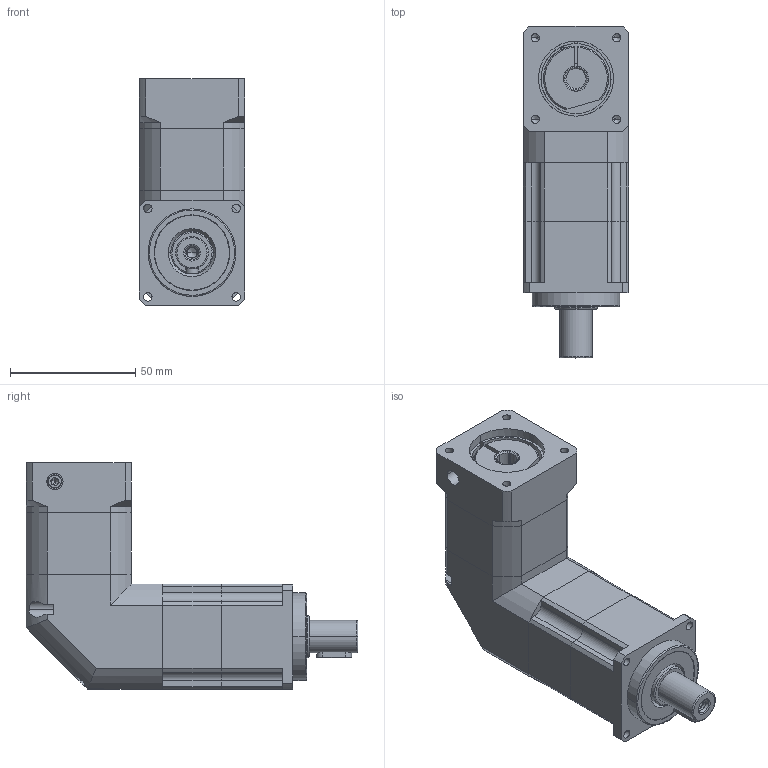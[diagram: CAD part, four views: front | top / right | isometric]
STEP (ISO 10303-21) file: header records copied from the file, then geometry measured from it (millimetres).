
FILE_DESCRIPTION (( 'STEP AP214' ), '1' );
FILE_NAME ('PAR042-L2-S2-P2 8-30-46-M4.STEP', '2019-12-16T05:45:52', ( '微软用户' ), ( '微软中国' ), 'SwSTEP 2.0', 'SolidWorks 2014', '' );
FILE_SCHEMA (( 'AUTOMOTIVE_DESIGN' ));
Length unit declared in the file: millimetre
Products named in the file (2): PAR042-L2-S2-P2 8-30-46-M4
Bounding box: 42 x 132.5 x 90.5 mm (x, y, z)
Volume: 203783.6 mm3; surface area: 53464.3 mm2
Topology: 5 solids, 5 shells, 976 faces, 2707 edges, 1779 vertices
Faces by surface type: plane 694, cylinder 157, bspline 69, cone 56
Entity records: 42798 total; most frequent: CARTESIAN_POINT 7319, ORIENTED_EDGE 5394, DIRECTION 4665, EDGE_CURVE 2697, VECTOR 2149, LINE 2149, VERTEX_POINT 1779, AXIS2_PLACEMENT_3D 1258
